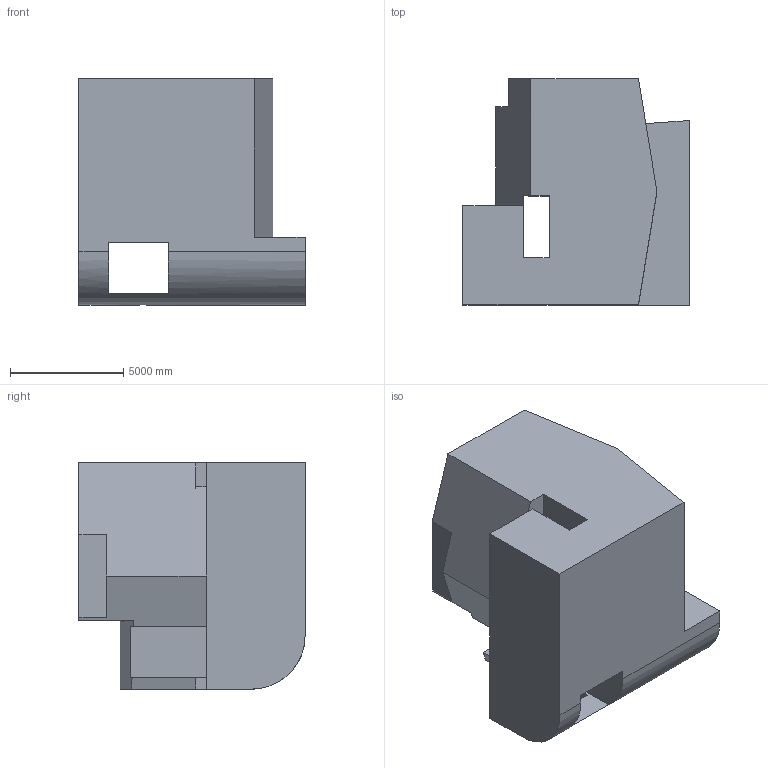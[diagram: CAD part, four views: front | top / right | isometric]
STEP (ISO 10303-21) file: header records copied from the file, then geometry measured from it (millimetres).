
FILE_DESCRIPTION (( 'STEP AP203' ), '1' );
FILE_NAME ('138.STEP', '2022-08-31T11:50:34', ( 'user' ), ( '' ), 'SwSTEP 2.0', 'SolidWorks 2021', '' );
FILE_SCHEMA (( 'CONFIG_CONTROL_DESIGN' ));
Length unit declared in the file: centimetre
Products named in the file (1): 138
Bounding box: 10000 x 10000 x 10000 mm (x, y, z)
Volume: 626099054204.5 mm3; surface area: 589108752.9 mm2
Topology: 1 solids, 1 shells, 31 faces, 96 edges, 64 vertices
Faces by surface type: plane 30, cylinder 1
Entity records: 1141 total; most frequent: CARTESIAN_POINT 192, ORIENTED_EDGE 192, DIRECTION 166, EDGE_CURVE 96, VECTOR 90, LINE 90, VERTEX_POINT 64, AXIS2_PLACEMENT_3D 38
